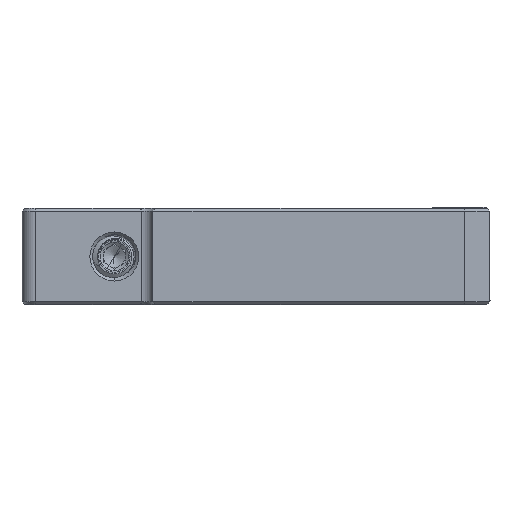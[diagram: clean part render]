
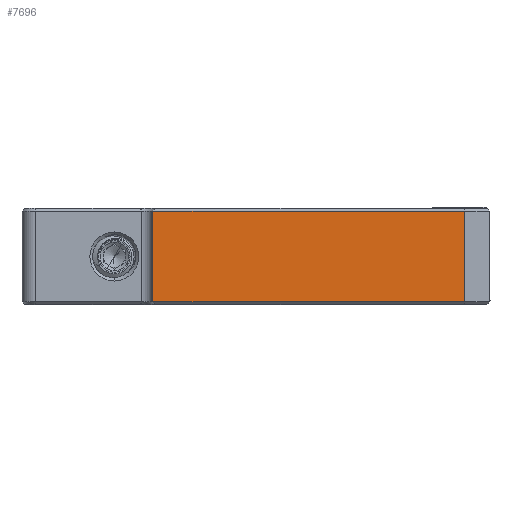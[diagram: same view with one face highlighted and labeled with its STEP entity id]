
A CAD part, left-side view. The second image highlights one B-rep face of the part: STEP entity #7696.
In plain terms, the highlighted planar face has unit normal (-1, 0, 0).
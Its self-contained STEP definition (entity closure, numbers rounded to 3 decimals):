
#2=DIRECTION('',(0.,0.,1.));
#3=VECTOR('',#2,8.382);
#4=CARTESIAN_POINT('',(-34.768,-11.228,7.746));
#5=LINE('',#4,#3);
#238=DIRECTION('',(0.,1.,0.));
#239=VECTOR('',#238,28.75);
#240=CARTESIAN_POINT('',(-34.768,-39.979,7.746));
#241=LINE('',#240,#239);
#699=DIRECTION('',(0.,0.,1.));
#700=VECTOR('',#699,8.382);
#701=CARTESIAN_POINT('',(-34.768,-39.979,7.746));
#702=LINE('',#701,#700);
#703=DIRECTION('',(0.,-1.,0.));
#704=VECTOR('',#703,28.75);
#705=CARTESIAN_POINT('',(-34.768,-11.228,16.128));
#706=LINE('',#705,#704);
#5878=CARTESIAN_POINT('',(-34.768,-39.979,
16.128));
#5880=VERTEX_POINT('',#5878);
#5917=CARTESIAN_POINT('',(-34.768,-11.228,
16.128));
#5919=VERTEX_POINT('',#5917);
#5940=CARTESIAN_POINT('',(-34.768,-39.979,
7.746));
#5942=VERTEX_POINT('',#5940);
#5970=CARTESIAN_POINT('',(-34.768,-11.228,
7.746));
#5971=VERTEX_POINT('',#5970);
#7684=CARTESIAN_POINT('',(-34.768,13.196,16.382));
#7685=DIRECTION('',(1.,0.,0.));
#7686=DIRECTION('',(0.,1.,0.));
#7687=AXIS2_PLACEMENT_3D('',#7684,#7685,#7686);
#7688=PLANE('',#7687);
#7689=ORIENTED_EDGE('',*,*,#6353,.T.);
#7691=ORIENTED_EDGE('',*,*,#7690,.T.);
#7692=ORIENTED_EDGE('',*,*,#7675,.F.);
#7693=ORIENTED_EDGE('',*,*,#6720,.T.);
#7694=EDGE_LOOP('',(#7689,#7691,#7692,#7693));
#7695=FACE_OUTER_BOUND('',#7694,.F.);
#7696=ADVANCED_FACE('',(#7695),#7688,.F.);
#6353=EDGE_CURVE('',#5971,#5919,#5,.T.);
#6720=EDGE_CURVE('',#5942,#5971,#241,.T.);
#7675=EDGE_CURVE('',#5942,#5880,#702,.T.);
#7690=EDGE_CURVE('',#5919,#5880,#706,.T.);
